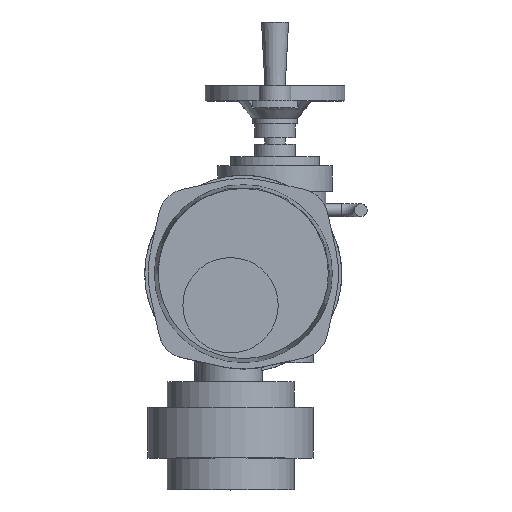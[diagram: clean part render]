
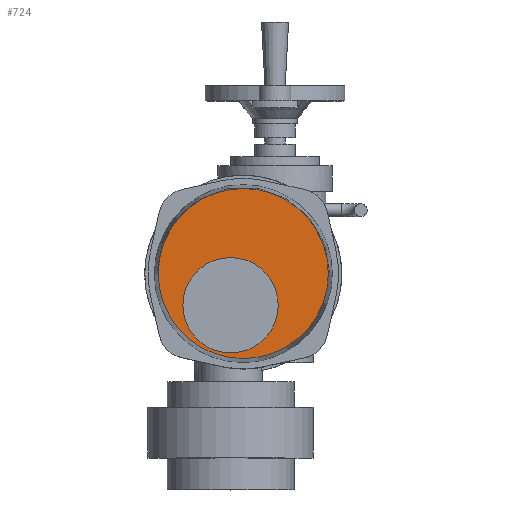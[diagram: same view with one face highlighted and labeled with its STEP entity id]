
A CAD part, top view. The second image highlights one B-rep face of the part: STEP entity #724.
In plain terms, the highlighted planar face has unit normal (0, 0, 1).
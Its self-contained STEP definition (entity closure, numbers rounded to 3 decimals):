
#724=ADVANCED_FACE('',(#7376,#7378),#7380,.T.);
#7376=FACE_BOUND('',#7377,.T.);
#7377=EDGE_LOOP('',(#12563));
#7378=FACE_BOUND('',#7379,.T.);
#7379=EDGE_LOOP('',(#12564));
#7380=PLANE('',#7381);
#7381=AXIS2_PLACEMENT_3D('',#7382,#7383,#7384);
#7382=CARTESIAN_POINT('',(15.,30.,413.));
#7383=DIRECTION('',(0.,0.,1.));
#7384=DIRECTION('',(-1.,0.,0.));
#12563=ORIENTED_EDGE('',*,*,#16531,.T.);
#12564=ORIENTED_EDGE('',*,*,#16534,.F.);
#16531=EDGE_CURVE('',#18729,#18729,#18730,.T.);
#16534=EDGE_CURVE('',#18735,#18735,#18736,.T.);
#18729=VERTEX_POINT('',#23208);
#18730=CIRCLE('',#23209,66.908);
#18735=VERTEX_POINT('',#23223);
#18736=CIRCLE('',#23224,37.5);
#23208=CARTESIAN_POINT('',(-51.908,30.,413.));
#23209=AXIS2_PLACEMENT_3D('',#23210,#23211,#23212);
#23210=CARTESIAN_POINT('',(15.,30.,413.));
#23211=DIRECTION('',(0.,0.,1.));
#23212=DIRECTION('',(-1.,0.,0.));
#23223=CARTESIAN_POINT('',(-32.5,5.,413.));
#23224=AXIS2_PLACEMENT_3D('',#23225,#23226,#23227);
#23225=CARTESIAN_POINT('',(5.,5.,413.));
#23226=DIRECTION('',(0.,0.,1.));
#23227=DIRECTION('',(-1.,0.,0.));
